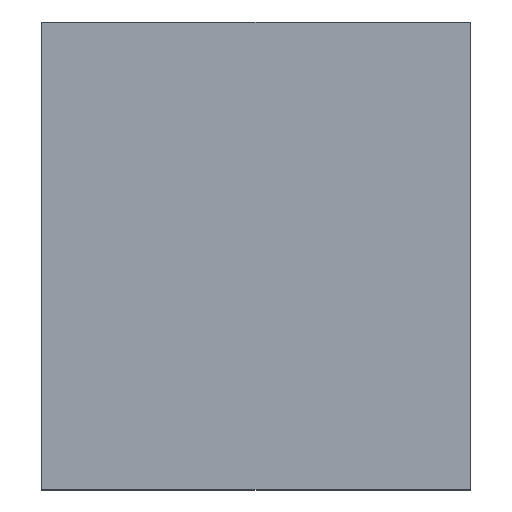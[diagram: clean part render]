
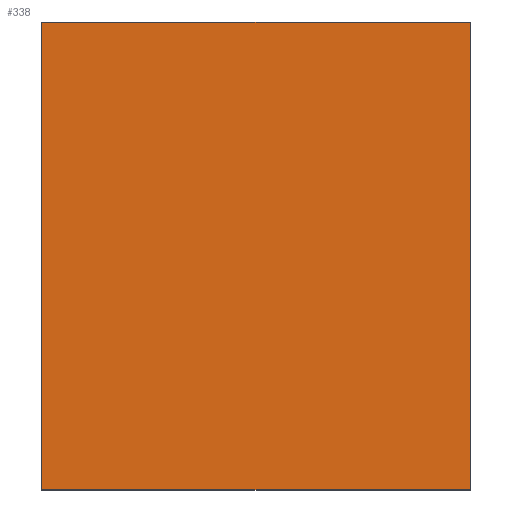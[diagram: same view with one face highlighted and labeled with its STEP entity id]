
A CAD part, top view. The second image highlights one B-rep face of the part: STEP entity #338.
In plain terms, the highlighted planar face has unit normal (0, 0, 1).
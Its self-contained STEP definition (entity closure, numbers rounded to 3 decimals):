
#24 = VERTEX_POINT('',#25);
#25 = CARTESIAN_POINT('',(850.,-410.,1210.));
#32 = PLANE('',#33);
#33 = AXIS2_PLACEMENT_3D('',#34,#35,#36);
#34 = CARTESIAN_POINT('',(850.,-410.,1190.));
#35 = DIRECTION('',(1.,0.,-0.));
#36 = DIRECTION('',(0.,0.,1.));
#44 = PLANE('',#45);
#45 = AXIS2_PLACEMENT_3D('',#46,#47,#48);
#46 = CARTESIAN_POINT('',(850.,-410.,1190.));
#47 = DIRECTION('',(-0.,1.,0.));
#48 = DIRECTION('',(0.,0.,1.));
#85 = VERTEX_POINT('',#86);
#86 = CARTESIAN_POINT('',(850.,-290.,1210.));
#100 = PLANE('',#101);
#101 = AXIS2_PLACEMENT_3D('',#102,#103,#104);
#102 = CARTESIAN_POINT('',(850.,-290.,1190.));
#103 = DIRECTION('',(-0.,1.,0.));
#104 = DIRECTION('',(0.,0.,1.));
#112 = EDGE_CURVE('',#24,#85,#113,.T.);
#113 = SURFACE_CURVE('',#114,(#118,#125),.PCURVE_S1.);
#114 = LINE('',#115,#116);
#115 = CARTESIAN_POINT('',(850.,-410.,1210.));
#116 = VECTOR('',#117,1.);
#117 = DIRECTION('',(-0.,1.,0.));
#118 = PCURVE('',#32,#119);
#119 = DEFINITIONAL_REPRESENTATION('',(#120),#124);
#120 = LINE('',#121,#122);
#121 = CARTESIAN_POINT('',(20.,0.));
#122 = VECTOR('',#123,1.);
#123 = DIRECTION('',(0.,-1.));
#124 = ( GEOMETRIC_REPRESENTATION_CONTEXT(2) 
PARAMETRIC_REPRESENTATION_CONTEXT() REPRESENTATION_CONTEXT('2D SPACE',''
  ) );
#125 = PCURVE('',#126,#131);
#126 = PLANE('',#127);
#127 = AXIS2_PLACEMENT_3D('',#128,#129,#130);
#128 = CARTESIAN_POINT('',(850.,-410.,1210.));
#129 = DIRECTION('',(0.,0.,1.));
#130 = DIRECTION('',(1.,0.,-0.));
#131 = DEFINITIONAL_REPRESENTATION('',(#132),#136);
#132 = LINE('',#133,#134);
#133 = CARTESIAN_POINT('',(0.,0.));
#134 = VECTOR('',#135,1.);
#135 = DIRECTION('',(0.,1.));
#136 = ( GEOMETRIC_REPRESENTATION_CONTEXT(2) 
PARAMETRIC_REPRESENTATION_CONTEXT() REPRESENTATION_CONTEXT('2D SPACE',''
  ) );
#144 = VERTEX_POINT('',#145);
#145 = CARTESIAN_POINT('',(960.,-410.,1210.));
#152 = PLANE('',#153);
#153 = AXIS2_PLACEMENT_3D('',#154,#155,#156);
#154 = CARTESIAN_POINT('',(960.,-410.,1190.));
#155 = DIRECTION('',(1.,0.,-0.));
#156 = DIRECTION('',(0.,0.,1.));
#195 = VERTEX_POINT('',#196);
#196 = CARTESIAN_POINT('',(960.,-290.,1210.));
#217 = EDGE_CURVE('',#144,#195,#218,.T.);
#218 = SURFACE_CURVE('',#219,(#223,#230),.PCURVE_S1.);
#219 = LINE('',#220,#221);
#220 = CARTESIAN_POINT('',(960.,-410.,1210.));
#221 = VECTOR('',#222,1.);
#222 = DIRECTION('',(-0.,1.,0.));
#223 = PCURVE('',#152,#224);
#224 = DEFINITIONAL_REPRESENTATION('',(#225),#229);
#225 = LINE('',#226,#227);
#226 = CARTESIAN_POINT('',(20.,0.));
#227 = VECTOR('',#228,1.);
#228 = DIRECTION('',(0.,-1.));
#229 = ( GEOMETRIC_REPRESENTATION_CONTEXT(2) 
PARAMETRIC_REPRESENTATION_CONTEXT() REPRESENTATION_CONTEXT('2D SPACE',''
  ) );
#230 = PCURVE('',#126,#231);
#231 = DEFINITIONAL_REPRESENTATION('',(#232),#236);
#232 = LINE('',#233,#234);
#233 = CARTESIAN_POINT('',(110.,0.));
#234 = VECTOR('',#235,1.);
#235 = DIRECTION('',(0.,1.));
#236 = ( GEOMETRIC_REPRESENTATION_CONTEXT(2) 
PARAMETRIC_REPRESENTATION_CONTEXT() REPRESENTATION_CONTEXT('2D SPACE',''
  ) );
#263 = EDGE_CURVE('',#24,#144,#264,.T.);
#264 = SURFACE_CURVE('',#265,(#269,#276),.PCURVE_S1.);
#265 = LINE('',#266,#267);
#266 = CARTESIAN_POINT('',(850.,-410.,1210.));
#267 = VECTOR('',#268,1.);
#268 = DIRECTION('',(1.,0.,-0.));
#269 = PCURVE('',#44,#270);
#270 = DEFINITIONAL_REPRESENTATION('',(#271),#275);
#271 = LINE('',#272,#273);
#272 = CARTESIAN_POINT('',(20.,0.));
#273 = VECTOR('',#274,1.);
#274 = DIRECTION('',(0.,1.));
#275 = ( GEOMETRIC_REPRESENTATION_CONTEXT(2) 
PARAMETRIC_REPRESENTATION_CONTEXT() REPRESENTATION_CONTEXT('2D SPACE',''
  ) );
#276 = PCURVE('',#126,#277);
#277 = DEFINITIONAL_REPRESENTATION('',(#278),#282);
#278 = LINE('',#279,#280);
#279 = CARTESIAN_POINT('',(0.,0.));
#280 = VECTOR('',#281,1.);
#281 = DIRECTION('',(1.,0.));
#282 = ( GEOMETRIC_REPRESENTATION_CONTEXT(2) 
PARAMETRIC_REPRESENTATION_CONTEXT() REPRESENTATION_CONTEXT('2D SPACE',''
  ) );
#310 = EDGE_CURVE('',#85,#195,#311,.T.);
#311 = SURFACE_CURVE('',#312,(#316,#323),.PCURVE_S1.);
#312 = LINE('',#313,#314);
#313 = CARTESIAN_POINT('',(850.,-290.,1210.));
#314 = VECTOR('',#315,1.);
#315 = DIRECTION('',(1.,0.,-0.));
#316 = PCURVE('',#100,#317);
#317 = DEFINITIONAL_REPRESENTATION('',(#318),#322);
#318 = LINE('',#319,#320);
#319 = CARTESIAN_POINT('',(20.,0.));
#320 = VECTOR('',#321,1.);
#321 = DIRECTION('',(0.,1.));
#322 = ( GEOMETRIC_REPRESENTATION_CONTEXT(2) 
PARAMETRIC_REPRESENTATION_CONTEXT() REPRESENTATION_CONTEXT('2D SPACE',''
  ) );
#323 = PCURVE('',#126,#324);
#324 = DEFINITIONAL_REPRESENTATION('',(#325),#329);
#325 = LINE('',#326,#327);
#326 = CARTESIAN_POINT('',(0.,120.));
#327 = VECTOR('',#328,1.);
#328 = DIRECTION('',(1.,0.));
#329 = ( GEOMETRIC_REPRESENTATION_CONTEXT(2) 
PARAMETRIC_REPRESENTATION_CONTEXT() REPRESENTATION_CONTEXT('2D SPACE',''
  ) );
#338 = ADVANCED_FACE('',(#339),#126,.T.);
#339 = FACE_BOUND('',#340,.T.);
#340 = EDGE_LOOP('',(#341,#342,#343,#344));
#341 = ORIENTED_EDGE('',*,*,#112,.F.);
#342 = ORIENTED_EDGE('',*,*,#263,.T.);
#343 = ORIENTED_EDGE('',*,*,#217,.T.);
#344 = ORIENTED_EDGE('',*,*,#310,.F.);
